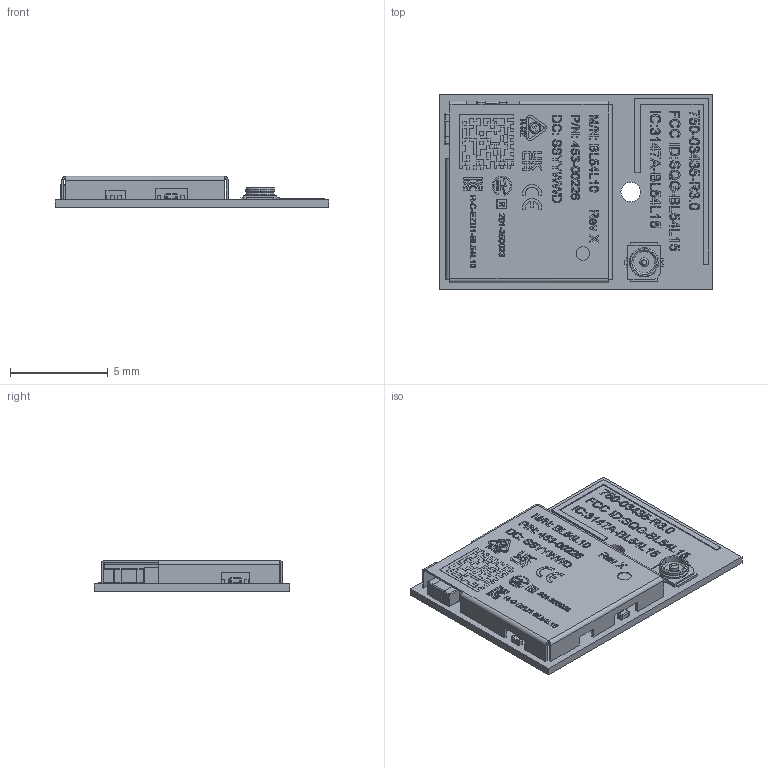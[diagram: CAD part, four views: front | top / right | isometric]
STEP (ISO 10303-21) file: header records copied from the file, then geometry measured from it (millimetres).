
FILE_DESCRIPTION (( 'STEP AP214' ), '1' );
FILE_NAME ('453-00226.STEP', '2026-05-25T09:10:41', ( '' ), ( '' ), 'SwSTEP 2.0', 'SolidWorks 2025', '' );
FILE_SCHEMA (( 'AUTOMOTIVE_DESIGN' ));
Length unit declared in the file: millimetre
Products named in the file (4): 453-00226; 750-03435-11122161_940-00340, MHF4; 940-00086_laser; 110-00001_453-00226
Assembly tree (3 placements, depth 3):
  453-00226
    940-00086_laser
      750-03435-11122161_940-00340, MHF4
      110-00001_453-00226
Bounding box: 14 x 10 x 1.6 mm (x, y, z)
Volume: 10.2 mm3; surface area: 711.4 mm2
Topology: 1 solids, 551 shells, 5137 faces, 13922 edges, 9563 vertices
Faces by surface type: plane 2657, bspline 1151, cylinder 1119, sphere 184, torus 16, cone 10
Entity records: 251498 total; most frequent: CARTESIAN_POINT 74800, ORIENTED_EDGE 25845, DIRECTION 20854, EDGE_CURVE 13818, VERTEX_POINT 9563, LINE 8298, VECTOR 8298, AXIS2_PLACEMENT_3D 6278
